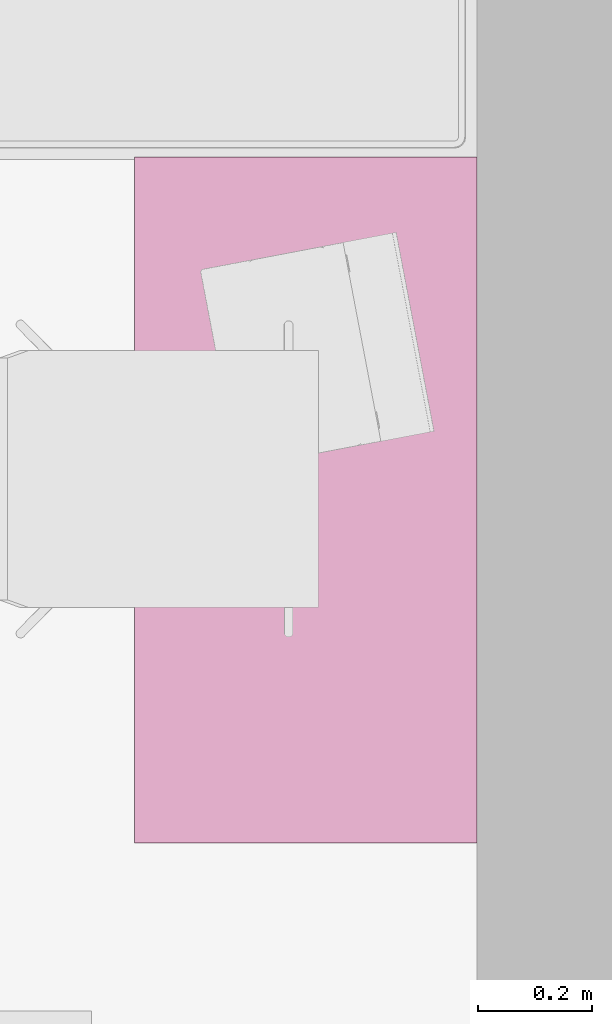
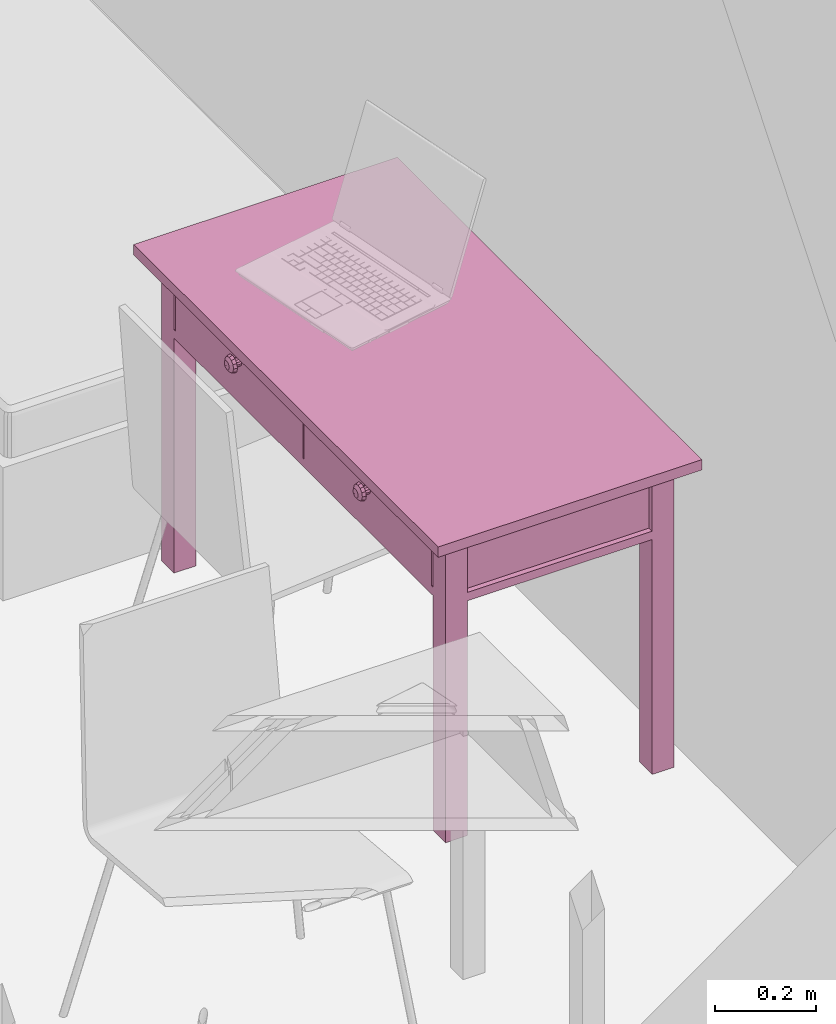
# One storey, part 95 of 172: 1 furnishing.
"""IFC2X3 building model written with IfcOpenShell, lengths in millimetres."""

from ifc_helpers import new_model, entity, si_unit, converted_unit, money_unit, direction, frame, origin_with_axes, place, context, subcontext, project, spatial, faceted_brep, source, transform, mapped, material, material_list, type_object, element, save


model = new_model("IFC2X3")

# Units and contexts
model_context = context("Model", 3, precision=1e-05, world=origin_with_axes(), true_north=direction((0.0, 1.0)))
body_context = subcontext(model_context, "Body", "Model", "MODEL_VIEW")
ifc_project = project(units=[si_unit("LENGTHUNIT", "METRE", prefix="MILLI"), si_unit("AREAUNIT", "SQUARE_METRE"), si_unit("VOLUMEUNIT", "CUBIC_METRE"), converted_unit("PLANEANGLEUNIT", "DEGREE", entity("IfcPlaneAngleMeasure", 0.0174532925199), si_unit("PLANEANGLEUNIT", "RADIAN"), dimensions=[0, 0, 0, 0, 0, 0, 0]), si_unit("SOLIDANGLEUNIT", "STERADIAN"), money_unit("USD"), converted_unit("TIMEUNIT", "Year", entity("IfcTimeMeasure", 31556926.0), si_unit("TIMEUNIT", "SECOND"), dimensions=[0, 0, 0, 0, 0, 0, 0]), si_unit("MASSUNIT", "GRAM"), si_unit("THERMODYNAMICTEMPERATUREUNIT", "DEGREE_CELSIUS"), si_unit("LUMINOUSINTENSITYUNIT", "LUMEN")], contexts=[model_context])

# Site, building, storey
site_placement = place(None, origin_with_axes())
site = spatial("IfcSite", under=ifc_project, at=site_placement, Name="Site", CompositionType="ELEMENT")
building_placement = place(site_placement, origin_with_axes())
building = spatial("IfcBuilding", under=site, at=building_placement, Name="Building", CompositionType="ELEMENT")
storey_placement = place(building_placement, frame((0.0, 0.0, 3200.0), z_axis=(0.0, 0.0, 1.0), x_axis=(1.0, 0.0, 0.0)))
storey = spatial("IfcBuildingStorey", under=building, at=storey_placement, Name="3KORRUS", CompositionType="ELEMENT", Elevation=3200.0)

# Furnishing
ifc_material = material(Name="Background")
ifc_material_list = material_list([ifc_material])
furnishing_element_type = type_object("IfcFurnishingElementType", Name="Rectangular Table 01 19")
shared_shape = source(origin_with_axes(), body_context, "Body", "Brep", [
    faceted_brep([(90.0, 40.0, 0.0), (40.0, 40.0, 0.0), (40.0, 90.0, 0.0), (90.0, 90.0, 0.0), (90.0, 40.0, 725.0), (40.0, 40.0, 725.0), (40.0, 90.0, 725.0), (90.0, 90.0, 725.0)], [[[0, 1, 2, 3]], [[1, 0, 4, 5]], [[2, 1, 5, 6]], [[3, 2, 6, 7]], [[0, 3, 7, 4]], [[5, 4, 7, 6]]]),
    faceted_brep([(1160.0, 40.0, 0.0), (1110.0, 40.0, 0.0), (1110.0, 90.0, 0.0), (1160.0, 90.0, 0.0), (1160.0, 40.0, 725.0), (1110.0, 40.0, 725.0), (1110.0, 90.0, 725.0), (1160.0, 90.0, 725.0)], [[[0, 1, 2, 3]], [[1, 0, 4, 5]], [[2, 1, 5, 6]], [[3, 2, 6, 7]], [[0, 3, 7, 4]], [[5, 4, 7, 6]]]),
    faceted_brep([(90.0, 510.0, 0.0), (40.0, 510.0, 0.0), (40.0, 560.0, 0.0), (90.0, 560.0, 0.0), (90.0, 510.0, 725.0), (40.0, 510.0, 725.0), (40.0, 560.0, 725.0), (90.0, 560.0, 725.0)], [[[0, 1, 2, 3]], [[1, 0, 4, 5]], [[2, 1, 5, 6]], [[3, 2, 6, 7]], [[0, 3, 7, 4]], [[5, 4, 7, 6]]]),
    faceted_brep([(1160.0, 510.0, 0.0), (1110.0, 510.0, 0.0), (1110.0, 560.0, 0.0), (1160.0, 560.0, 0.0), (1160.0, 510.0, 725.0), (1110.0, 510.0, 725.0), (1110.0, 560.0, 725.0), (1160.0, 560.0, 725.0)], [[[0, 1, 2, 3]], [[1, 0, 4, 5]], [[2, 1, 5, 6]], [[3, 2, 6, 7]], [[0, 3, 7, 4]], [[5, 4, 7, 6]]]),
    faceted_brep([(1160.0, 40.0, 565.0), (40.0, 40.0, 565.0), (40.0, 560.0, 565.0), (1160.0, 560.0, 565.0), (1160.0, 40.0, 585.0), (40.0, 40.0, 585.0), (40.0, 560.0, 585.0), (1160.0, 560.0, 585.0)], [[[0, 1, 2, 3]], [[1, 0, 4, 5]], [[2, 1, 5, 6]], [[3, 2, 6, 7]], [[0, 3, 7, 4]], [[5, 4, 7, 6]]]),
    faceted_brep([(1110.0, 52.5, 585.0), (90.0, 52.5, 585.0), (90.0, 77.5, 585.0), (1110.0, 77.5, 585.0), (1110.0, 52.5, 745.0), (90.0, 52.5, 745.0), (90.0, 77.5, 745.0), (1110.0, 77.5, 745.0)], [[[0, 1, 2, 3]], [[1, 0, 4, 5]], [[2, 1, 5, 6]], [[3, 2, 6, 7]], [[0, 3, 7, 4]], [[5, 4, 7, 6]]]),
    faceted_brep([(77.5, 90.0, 585.0), (52.5, 90.0, 585.0), (52.5, 510.0, 585.0), (77.5, 510.0, 585.0), (77.5, 90.0, 745.0), (52.5, 90.0, 745.0), (52.5, 510.0, 745.0), (77.5, 510.0, 745.0)], [[[0, 1, 2, 3]], [[1, 0, 4, 5]], [[2, 1, 5, 6]], [[3, 2, 6, 7]], [[0, 3, 7, 4]], [[5, 4, 7, 6]]]),
    faceted_brep([(90.0, 547.5, 585.0), (1110.0, 547.5, 585.0), (1110.0, 522.5, 585.0), (90.0, 522.5, 585.0), (90.0, 547.5, 745.0), (1110.0, 547.5, 745.0), (1110.0, 522.5, 745.0), (90.0, 522.5, 745.0)], [[[0, 1, 2, 3]], [[1, 0, 4, 5]], [[2, 1, 5, 6]], [[3, 2, 6, 7]], [[0, 3, 7, 4]], [[5, 4, 7, 6]]]),
    faceted_brep([(1122.5, 510.0, 585.0), (1147.5, 510.0, 585.0), (1147.5, 90.0, 585.0), (1122.5, 90.0, 585.0), (1122.5, 510.0, 745.0), (1147.5, 510.0, 745.0), (1147.5, 90.0, 745.0), (1122.5, 90.0, 745.0)], [[[0, 1, 2, 3]], [[1, 0, 4, 5]], [[2, 1, 5, 6]], [[3, 2, 6, 7]], [[0, 3, 7, 4]], [[5, 4, 7, 6]]]),
    faceted_brep([(597.5, 40.0, 585.0), (95.0, 40.0, 585.0), (95.0, 60.0, 585.0), (597.5, 60.0, 585.0), (597.5, 40.0, 745.0), (95.0, 40.0, 745.0), (95.0, 60.0, 745.0), (597.5, 60.0, 745.0)], [[[0, 1, 2, 3]], [[1, 0, 4, 5]], [[2, 1, 5, 6]], [[3, 2, 6, 7]], [[0, 3, 7, 4]], [[5, 4, 7, 6]]]),
    faceted_brep([(1105.0, 40.0, 585.0), (602.5, 40.0, 585.0), (602.5, 60.0, 585.0), (1105.0, 60.0, 585.0), (1105.0, 40.0, 745.0), (602.5, 40.0, 745.0), (602.5, 60.0, 745.0), (1105.0, 60.0, 745.0)], [[[0, 1, 2, 3]], [[1, 0, 4, 5]], [[2, 1, 5, 6]], [[3, 2, 6, 7]], [[0, 3, 7, 4]], [[5, 4, 7, 6]]]),
    faceted_brep([(354.91, 40.0, 660.0), (351.25, 40.0, 656.34), (346.25, 40.0, 655.0), (341.25, 40.0, 656.34), (337.59, 40.0, 660.0), (336.25, 40.0, 665.0), (337.59, 40.0, 670.0), (341.25, 40.0, 673.66), (346.25, 40.0, 675.0), (351.25, 40.0, 673.66), (354.91, 40.0, 670.0), (356.25, 40.0, 665.0), (354.91, 25.0, 660.0), (351.25, 25.0, 656.34), (346.25, 25.0, 655.0), (341.25, 25.0, 656.34), (337.59, 25.0, 660.0), (336.25, 25.0, 665.0), (337.59, 25.0, 670.0), (341.25, 25.0, 673.66), (346.25, 25.0, 675.0), (351.25, 25.0, 673.66), (354.91, 25.0, 670.0), (356.25, 25.0, 665.0)], [[[0, 1, 2, 3, 4, 5, 6, 7, 8, 9, 10, 11]], [[1, 0, 12, 13]], [[2, 1, 13, 14]], [[3, 2, 14, 15]], [[4, 3, 15, 16]], [[5, 4, 16, 17]], [[6, 5, 17, 18]], [[7, 6, 18, 19]], [[8, 7, 19, 20]], [[9, 8, 20, 21]], [[10, 9, 21, 22]], [[11, 10, 22, 23]], [[0, 11, 23, 12]], [[12, 23, 22, 21, 20, 19, 18, 17, 16, 15, 14, 13]]]),
    faceted_brep([(356.25, 12.01, 665.0), (346.25, 10.0, 665.0), (354.91, 12.01, 660.0), (354.91, 12.01, 670.0), (351.25, 12.01, 656.34), (363.571, 17.5, 665.0), (361.25, 17.5, 656.34), (351.25, 12.01, 673.66), (361.25, 17.5, 673.66), (346.25, 12.01, 655.0), (354.91, 17.5, 650.0), (366.25, 25.0, 665.0), (363.571, 25.0, 655.0), (346.25, 12.01, 675.0), (354.91, 17.5, 680.0), (363.571, 25.0, 675.0), (341.25, 12.01, 656.34), (346.25, 17.5, 647.679), (356.25, 25.0, 647.679), (346.25, 25.0, 645.0), (336.25, 25.0, 647.679), (328.929, 25.0, 655.0), (326.25, 25.0, 665.0), (328.929, 25.0, 675.0), (336.25, 25.0, 682.321), (346.25, 25.0, 685.0), (356.25, 25.0, 682.321), (341.25, 12.01, 673.66), (346.25, 17.5, 682.321), (337.59, 12.01, 660.0), (337.59, 17.5, 650.0), (331.25, 17.5, 656.34), (328.929, 17.5, 665.0), (331.25, 17.5, 673.66), (337.59, 17.5, 680.0), (337.59, 12.01, 670.0), (336.25, 12.01, 665.0)], [[[0, 1, 2]], [[3, 1, 0]], [[2, 1, 4]], [[5, 0, 2, 6]], [[7, 1, 3]], [[8, 3, 0, 5]], [[4, 1, 9]], [[6, 2, 4, 10]], [[11, 5, 6, 12]], [[13, 1, 7]], [[14, 7, 3, 8]], [[15, 8, 5, 11]], [[9, 1, 16]], [[10, 4, 9, 17]], [[12, 6, 10, 18]], [[12, 18, 19, 20, 21, 22, 23, 24, 25, 26, 15, 11]], [[27, 1, 13]], [[28, 13, 7, 14]], [[26, 14, 8, 15]], [[16, 1, 29]], [[17, 9, 16, 30]], [[18, 10, 17, 19]], [[19, 17, 30, 20]], [[20, 30, 31, 21]], [[21, 31, 32, 22]], [[22, 32, 33, 23]], [[23, 33, 34, 24]], [[24, 34, 28, 25]], [[25, 28, 14, 26]], [[35, 1, 27]], [[34, 27, 13, 28]], [[29, 1, 36]], [[30, 16, 29, 31]], [[31, 29, 36, 32]], [[32, 36, 35, 33]], [[33, 35, 27, 34]], [[36, 1, 35]]]),
    faceted_brep([(862.41, 40.0, 660.0), (858.75, 40.0, 656.34), (853.75, 40.0, 655.0), (848.75, 40.0, 656.34), (845.09, 40.0, 660.0), (843.75, 40.0, 665.0), (845.09, 40.0, 670.0), (848.75, 40.0, 673.66), (853.75, 40.0, 675.0), (858.75, 40.0, 673.66), (862.41, 40.0, 670.0), (863.75, 40.0, 665.0), (862.41, 25.0, 660.0), (858.75, 25.0, 656.34), (853.75, 25.0, 655.0), (848.75, 25.0, 656.34), (845.09, 25.0, 660.0), (843.75, 25.0, 665.0), (845.09, 25.0, 670.0), (848.75, 25.0, 673.66), (853.75, 25.0, 675.0), (858.75, 25.0, 673.66), (862.41, 25.0, 670.0), (863.75, 25.0, 665.0)], [[[0, 1, 2, 3, 4, 5, 6, 7, 8, 9, 10, 11]], [[1, 0, 12, 13]], [[2, 1, 13, 14]], [[3, 2, 14, 15]], [[4, 3, 15, 16]], [[5, 4, 16, 17]], [[6, 5, 17, 18]], [[7, 6, 18, 19]], [[8, 7, 19, 20]], [[9, 8, 20, 21]], [[10, 9, 21, 22]], [[11, 10, 22, 23]], [[0, 11, 23, 12]], [[12, 23, 22, 21, 20, 19, 18, 17, 16, 15, 14, 13]]]),
    faceted_brep([(863.75, 12.01, 665.0), (853.75, 10.0, 665.0), (862.41, 12.01, 660.0), (862.41, 12.01, 670.0), (858.75, 12.01, 656.34), (871.071, 17.5, 665.0), (868.75, 17.5, 656.34), (858.75, 12.01, 673.66), (868.75, 17.5, 673.66), (853.75, 12.01, 655.0), (862.41, 17.5, 650.0), (873.75, 25.0, 665.0), (871.071, 25.0, 655.0), (853.75, 12.01, 675.0), (862.41, 17.5, 680.0), (871.071, 25.0, 675.0), (848.75, 12.01, 656.34), (853.75, 17.5, 647.679), (863.75, 25.0, 647.679), (853.75, 25.0, 645.0), (843.75, 25.0, 647.679), (836.429, 25.0, 655.0), (833.75, 25.0, 665.0), (836.429, 25.0, 675.0), (843.75, 25.0, 682.321), (853.75, 25.0, 685.0), (863.75, 25.0, 682.321), (848.75, 12.01, 673.66), (853.75, 17.5, 682.321), (845.09, 12.01, 660.0), (845.09, 17.5, 650.0), (838.75, 17.5, 656.34), (836.429, 17.5, 665.0), (838.75, 17.5, 673.66), (845.09, 17.5, 680.0), (845.09, 12.01, 670.0), (843.75, 12.01, 665.0)], [[[0, 1, 2]], [[3, 1, 0]], [[2, 1, 4]], [[5, 0, 2, 6]], [[7, 1, 3]], [[8, 3, 0, 5]], [[4, 1, 9]], [[6, 2, 4, 10]], [[11, 5, 6, 12]], [[13, 1, 7]], [[14, 7, 3, 8]], [[15, 8, 5, 11]], [[9, 1, 16]], [[10, 4, 9, 17]], [[12, 6, 10, 18]], [[12, 18, 19, 20, 21, 22, 23, 24, 25, 26, 15, 11]], [[27, 1, 13]], [[28, 13, 7, 14]], [[26, 14, 8, 15]], [[16, 1, 29]], [[17, 9, 16, 30]], [[18, 10, 17, 19]], [[19, 17, 30, 20]], [[20, 30, 31, 21]], [[21, 31, 32, 22]], [[22, 32, 33, 23]], [[23, 33, 34, 24]], [[24, 34, 28, 25]], [[25, 28, 14, 26]], [[35, 1, 27]], [[34, 27, 13, 28]], [[29, 1, 36]], [[30, 16, 29, 31]], [[31, 29, 36, 32]], [[32, 36, 35, 33]], [[33, 35, 27, 34]], [[36, 1, 35]]]),
    faceted_brep([(1200.0, 0.0, 725.0), (0.0, 0.0, 725.0), (0.0, 600.0, 725.0), (1200.0, 600.0, 725.0), (1200.0, 0.0, 750.0), (0.0, 0.0, 750.0), (0.0, 600.0, 750.0), (1200.0, 600.0, 750.0)], [[[0, 1, 2, 3]], [[1, 0, 4, 5]], [[2, 1, 5, 6]], [[3, 2, 6, 7]], [[0, 3, 7, 4]], [[5, 4, 7, 6]]]),
])
furnishing_placement = place(storey_placement, frame((-36890.2967033, -17434.8573505, 0.0), z_axis=(0.0, 0.0, 1.0), x_axis=(0.0, -1.0, 0.0)))
element("IfcFurnishingElement", 1, at=furnishing_placement, inside=storey, type_object=furnishing_element_type, material=ifc_material_list, Name="FU - 011", context=body_context, shape_type="MappedRepresentation", body=[
    mapped(shared_shape, transform((0.0, 0.0, 0.0))),
])

save(model, "model.ifc")
